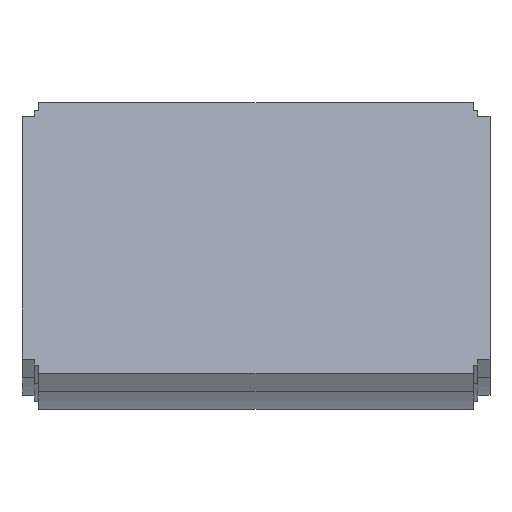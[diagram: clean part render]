
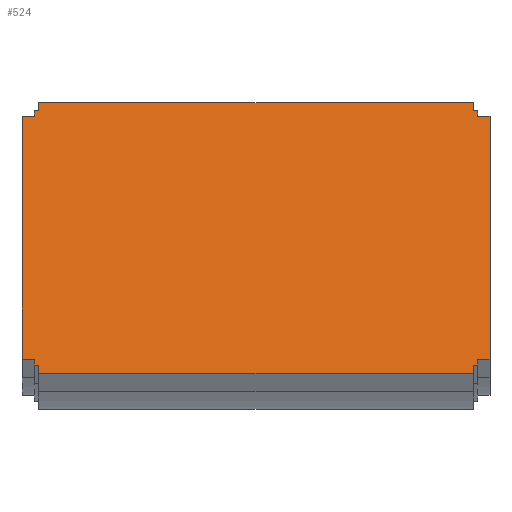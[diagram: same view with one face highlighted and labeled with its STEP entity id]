
A CAD part, top view. The second image highlights one B-rep face of the part: STEP entity #524.
In plain terms, the highlighted planar face has unit normal (0, 0.174, 0.985).
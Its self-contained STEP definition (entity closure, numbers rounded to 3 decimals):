
#5 = EDGE_CURVE ( 'NONE', #82, #46, #831, .T. ) ;
#14 = EDGE_CURVE ( 'NONE', #874, #82, #1051, .T. ) ;
#19 = CARTESIAN_POINT ( 'NONE',  ( -110.25, -46.561, 202.183 ) ) ;
#21 = DIRECTION ( 'NONE',  ( -1., 0., 0. ) ) ;
#35 = LINE ( 'NONE', #56, #213 ) ;
#46 = VERTEX_POINT ( 'NONE', #236 ) ;
#53 = EDGE_CURVE ( 'NONE', #569, #372, #1225, .T. ) ;
#56 = CARTESIAN_POINT ( 'NONE',  ( -110.25, 77.032, 180.391 ) ) ;
#59 = DIRECTION ( 'NONE',  ( -1., 0., 0. ) ) ;
#61 = VECTOR ( 'NONE', #450, 1000. ) ;
#65 = DIRECTION ( 'NONE',  ( 0., -0.985, 0.174 ) ) ;
#71 = LINE ( 'NONE', #473, #482 ) ;
#81 = VECTOR ( 'NONE', #770, 1000. ) ;
#82 = VERTEX_POINT ( 'NONE', #356 ) ;
#83 = CARTESIAN_POINT ( 'NONE',  ( -107.95, 79.987, 179.87 ) ) ;
#86 = VECTOR ( 'NONE', #420, 1000. ) ;
#95 = CARTESIAN_POINT ( 'NONE',  ( 110.25, -46.561, 202.183 ) ) ;
#101 = DIRECTION ( 'NONE',  ( -1., 0., 0. ) ) ;
#104 = VECTOR ( 'NONE', #1392, 1000. ) ;
#120 = VECTOR ( 'NONE', #743, 1000. ) ;
#122 = DIRECTION ( 'NONE',  ( 0., 0.985, -0.174 ) ) ;
#130 = ORIENTED_EDGE ( 'NONE', *, *, #528, .T. ) ;
#134 = LINE ( 'NONE', #244, #953 ) ;
#137 = VECTOR ( 'NONE', #408, 1000. ) ;
#143 = VERTEX_POINT ( 'NONE', #1114 ) ;
#151 = CARTESIAN_POINT ( 'NONE',  ( -110.25, -46.561, 202.183 ) ) ;
#179 = CARTESIAN_POINT ( 'NONE',  ( 107.95, -46.561, 202.183 ) ) ;
#181 = VECTOR ( 'NONE', #122, 1000. ) ;
#200 = VECTOR ( 'NONE', #21, 1000. ) ;
#207 = CARTESIAN_POINT ( 'NONE',  ( -110.25, 79.987, 179.87 ) ) ;
#208 = LINE ( 'NONE', #151, #697 ) ;
#211 = LINE ( 'NONE', #530, #81 ) ;
#213 = VECTOR ( 'NONE', #59, 1000. ) ;
#223 = CARTESIAN_POINT ( 'NONE',  ( -107.95, 83.926, 179.175 ) ) ;
#229 = EDGE_CURVE ( 'NONE', #433, #849, #1235, .T. ) ;
#236 = CARTESIAN_POINT ( 'NONE',  ( 107.95, 79.987, 179.87 ) ) ;
#241 = LINE ( 'NONE', #223, #1354 ) ;
#244 = CARTESIAN_POINT ( 'NONE',  ( 110.25, -43.607, 201.662 ) ) ;
#264 = EDGE_CURVE ( 'NONE', #1055, #874, #361, .T. ) ;
#268 = ORIENTED_EDGE ( 'NONE', *, *, #53, .T. ) ;
#274 = EDGE_CURVE ( 'NONE', #1261, #927, #401, .T. ) ;
#276 = EDGE_CURVE ( 'NONE', #1054, #1283, #987, .T. ) ;
#305 = CARTESIAN_POINT ( 'NONE',  ( -110.25, 79.987, 179.87 ) ) ;
#306 = EDGE_CURVE ( 'NONE', #46, #143, #418, .T. ) ;
#310 = ORIENTED_EDGE ( 'NONE', *, *, #403, .T. ) ;
#313 = CARTESIAN_POINT ( 'NONE',  ( 110.25, 77.032, 180.391 ) ) ;
#326 = ORIENTED_EDGE ( 'NONE', *, *, #274, .T. ) ;
#331 = EDGE_CURVE ( 'NONE', #1179, #415, #134, .T. ) ;
#333 = VECTOR ( 'NONE', #438, 1000. ) ;
#353 = DIRECTION ( 'NONE',  ( 1., 0., 0. ) ) ;
#356 = CARTESIAN_POINT ( 'NONE',  ( 110.25, 79.987, 179.87 ) ) ;
#361 = LINE ( 'NONE', #313, #679 ) ;
#372 = VERTEX_POINT ( 'NONE', #19 ) ;
#375 = CARTESIAN_POINT ( 'NONE',  ( -107.95, 83.926, 179.175 ) ) ;
#401 = LINE ( 'NONE', #95, #86 ) ;
#402 = DIRECTION ( 'NONE',  ( -1., 0., 0. ) ) ;
#403 = EDGE_CURVE ( 'NONE', #372, #1054, #208, .T. ) ;
#408 = DIRECTION ( 'NONE',  ( 0., 0.985, -0.174 ) ) ;
#411 = ORIENTED_EDGE ( 'NONE', *, *, #1243, .T. ) ;
#414 = CARTESIAN_POINT ( 'NONE',  ( 110.25, -43.607, 201.662 ) ) ;
#415 = VERTEX_POINT ( 'NONE', #923 ) ;
#417 = DIRECTION ( 'NONE',  ( -1., 0., 0. ) ) ;
#418 = LINE ( 'NONE', #1387, #120 ) ;
#420 = DIRECTION ( 'NONE',  ( 1., 0., 0. ) ) ;
#433 = VERTEX_POINT ( 'NONE', #486 ) ;
#438 = DIRECTION ( 'NONE',  ( 0., 0.985, -0.174 ) ) ;
#444 = ORIENTED_EDGE ( 'NONE', *, *, #488, .T. ) ;
#445 = EDGE_LOOP ( 'NONE', ( #130, #734, #1233, #959, #534, #268, #310, #600, #1149, #444, #326, #411, #1089, #1282, #1171, #757, #508, #1113, #525, #1068 ) ) ;
#450 = DIRECTION ( 'NONE',  ( 0., -0.985, 0.174 ) ) ;
#462 = CARTESIAN_POINT ( 'NONE',  ( 110.25, -46.561, 202.183 ) ) ;
#469 = EDGE_CURVE ( 'NONE', #849, #1309, #35, .T. ) ;
#473 = CARTESIAN_POINT ( 'NONE',  ( -107.95, -50.5, 202.878 ) ) ;
#482 = VECTOR ( 'NONE', #353, 1000. ) ;
#486 = CARTESIAN_POINT ( 'NONE',  ( -110.25, 79.987, 179.87 ) ) ;
#488 = EDGE_CURVE ( 'NONE', #650, #1261, #628, .T. ) ;
#508 = ORIENTED_EDGE ( 'NONE', *, *, #5, .T. ) ;
#515 = DIRECTION ( 'NONE',  ( 0., 0.174, 0.985 ) ) ;
#524 = ADVANCED_FACE ( 'NONE', ( #1292 ), #1264, .T. ) ;
#525 = ORIENTED_EDGE ( 'NONE', *, *, #859, .T. ) ;
#527 = VECTOR ( 'NONE', #1073, 1000. ) ;
#528 = EDGE_CURVE ( 'NONE', #812, #433, #1256, .T. ) ;
#530 = CARTESIAN_POINT ( 'NONE',  ( -110.25, -43.607, 201.662 ) ) ;
#534 = ORIENTED_EDGE ( 'NONE', *, *, #717, .T. ) ;
#545 = EDGE_CURVE ( 'NONE', #415, #1055, #1061, .T. ) ;
#566 = CARTESIAN_POINT ( 'NONE',  ( 110.25, 79.987, 179.87 ) ) ;
#569 = VERTEX_POINT ( 'NONE', #1153 ) ;
#596 = DIRECTION ( 'NONE',  ( 0., 0.985, -0.174 ) ) ;
#600 = ORIENTED_EDGE ( 'NONE', *, *, #276, .T. ) ;
#607 = LINE ( 'NONE', #1052, #333 ) ;
#628 = LINE ( 'NONE', #1236, #1271 ) ;
#650 = VERTEX_POINT ( 'NONE', #1246 ) ;
#679 = VECTOR ( 'NONE', #417, 1000. ) ;
#695 = CARTESIAN_POINT ( 'NONE',  ( -107.95, -46.561, 202.183 ) ) ;
#697 = VECTOR ( 'NONE', #709, 1000. ) ;
#699 = AXIS2_PLACEMENT_3D ( 'NONE', #83, #515, #1268 ) ;
#709 = DIRECTION ( 'NONE',  ( 1., 0., 0. ) ) ;
#717 = EDGE_CURVE ( 'NONE', #884, #569, #211, .T. ) ;
#725 = CARTESIAN_POINT ( 'NONE',  ( -116.25, 77.032, 180.391 ) ) ;
#734 = ORIENTED_EDGE ( 'NONE', *, *, #229, .T. ) ;
#743 = DIRECTION ( 'NONE',  ( 0., 0.985, -0.174 ) ) ;
#757 = ORIENTED_EDGE ( 'NONE', *, *, #14, .T. ) ;
#770 = DIRECTION ( 'NONE',  ( 1., 0., 0. ) ) ;
#775 = CARTESIAN_POINT ( 'NONE',  ( 110.25, 79.987, 179.87 ) ) ;
#788 = CARTESIAN_POINT ( 'NONE',  ( -110.25, -46.561, 202.183 ) ) ;
#812 = VERTEX_POINT ( 'NONE', #1184 ) ;
#831 = LINE ( 'NONE', #566, #200 ) ;
#849 = VERTEX_POINT ( 'NONE', #866 ) ;
#859 = EDGE_CURVE ( 'NONE', #143, #1326, #241, .T. ) ;
#861 = CARTESIAN_POINT ( 'NONE',  ( 110.25, 77.032, 180.391 ) ) ;
#866 = CARTESIAN_POINT ( 'NONE',  ( -110.25, 77.032, 180.391 ) ) ;
#868 = EDGE_CURVE ( 'NONE', #1309, #884, #1198, .T. ) ;
#874 = VERTEX_POINT ( 'NONE', #861 ) ;
#884 = VERTEX_POINT ( 'NONE', #977 ) ;
#903 = EDGE_CURVE ( 'NONE', #1283, #650, #71, .T. ) ;
#923 = CARTESIAN_POINT ( 'NONE',  ( 116.25, -43.607, 201.662 ) ) ;
#927 = VERTEX_POINT ( 'NONE', #462 ) ;
#953 = VECTOR ( 'NONE', #1314, 1000. ) ;
#959 = ORIENTED_EDGE ( 'NONE', *, *, #868, .T. ) ;
#975 = VECTOR ( 'NONE', #65, 1000. ) ;
#977 = CARTESIAN_POINT ( 'NONE',  ( -116.25, -43.607, 201.662 ) ) ;
#987 = LINE ( 'NONE', #1402, #527 ) ;
#1051 = LINE ( 'NONE', #775, #181 ) ;
#1052 = CARTESIAN_POINT ( 'NONE',  ( 110.25, -46.561, 202.183 ) ) ;
#1054 = VERTEX_POINT ( 'NONE', #695 ) ;
#1055 = VERTEX_POINT ( 'NONE', #1334 ) ;
#1061 = LINE ( 'NONE', #1371, #137 ) ;
#1068 = ORIENTED_EDGE ( 'NONE', *, *, #1192, .T. ) ;
#1073 = DIRECTION ( 'NONE',  ( 0., -0.985, 0.174 ) ) ;
#1074 = DIRECTION ( 'NONE',  ( 0., -0.985, 0.174 ) ) ;
#1089 = ORIENTED_EDGE ( 'NONE', *, *, #331, .T. ) ;
#1092 = VECTOR ( 'NONE', #1074, 1000. ) ;
#1113 = ORIENTED_EDGE ( 'NONE', *, *, #306, .T. ) ;
#1114 = CARTESIAN_POINT ( 'NONE',  ( 107.95, 83.926, 179.175 ) ) ;
#1149 = ORIENTED_EDGE ( 'NONE', *, *, #903, .T. ) ;
#1153 = CARTESIAN_POINT ( 'NONE',  ( -110.25, -43.607, 201.662 ) ) ;
#1159 = CARTESIAN_POINT ( 'NONE',  ( -107.95, 79.987, 179.87 ) ) ;
#1160 = VECTOR ( 'NONE', #402, 1000. ) ;
#1171 = ORIENTED_EDGE ( 'NONE', *, *, #264, .T. ) ;
#1179 = VERTEX_POINT ( 'NONE', #414 ) ;
#1184 = CARTESIAN_POINT ( 'NONE',  ( -107.95, 79.987, 179.87 ) ) ;
#1187 = CARTESIAN_POINT ( 'NONE',  ( -107.95, -50.5, 202.878 ) ) ;
#1192 = EDGE_CURVE ( 'NONE', #1326, #812, #1257, .T. ) ;
#1198 = LINE ( 'NONE', #1290, #1092 ) ;
#1225 = LINE ( 'NONE', #788, #61 ) ;
#1233 = ORIENTED_EDGE ( 'NONE', *, *, #469, .T. ) ;
#1235 = LINE ( 'NONE', #207, #104 ) ;
#1236 = CARTESIAN_POINT ( 'NONE',  ( 107.95, -46.561, 202.183 ) ) ;
#1243 = EDGE_CURVE ( 'NONE', #927, #1179, #607, .T. ) ;
#1246 = CARTESIAN_POINT ( 'NONE',  ( 107.95, -50.5, 202.878 ) ) ;
#1256 = LINE ( 'NONE', #305, #1160 ) ;
#1257 = LINE ( 'NONE', #1159, #975 ) ;
#1261 = VERTEX_POINT ( 'NONE', #179 ) ;
#1264 = PLANE ( 'NONE',  #699 ) ;
#1268 = DIRECTION ( 'NONE',  ( 1., 0., 0. ) ) ;
#1271 = VECTOR ( 'NONE', #596, 1000. ) ;
#1282 = ORIENTED_EDGE ( 'NONE', *, *, #545, .T. ) ;
#1283 = VERTEX_POINT ( 'NONE', #1187 ) ;
#1290 = CARTESIAN_POINT ( 'NONE',  ( -116.25, -43.607, 201.662 ) ) ;
#1292 = FACE_OUTER_BOUND ( 'NONE', #445, .T. ) ;
#1309 = VERTEX_POINT ( 'NONE', #725 ) ;
#1314 = DIRECTION ( 'NONE',  ( 1., 0., 0. ) ) ;
#1326 = VERTEX_POINT ( 'NONE', #375 ) ;
#1334 = CARTESIAN_POINT ( 'NONE',  ( 116.25, 77.032, 180.391 ) ) ;
#1354 = VECTOR ( 'NONE', #101, 1000. ) ;
#1371 = CARTESIAN_POINT ( 'NONE',  ( 116.25, -43.607, 201.662 ) ) ;
#1387 = CARTESIAN_POINT ( 'NONE',  ( 107.95, 79.987, 179.87 ) ) ;
#1392 = DIRECTION ( 'NONE',  ( 0., -0.985, 0.174 ) ) ;
#1402 = CARTESIAN_POINT ( 'NONE',  ( -107.95, -46.561, 202.183 ) ) ;
